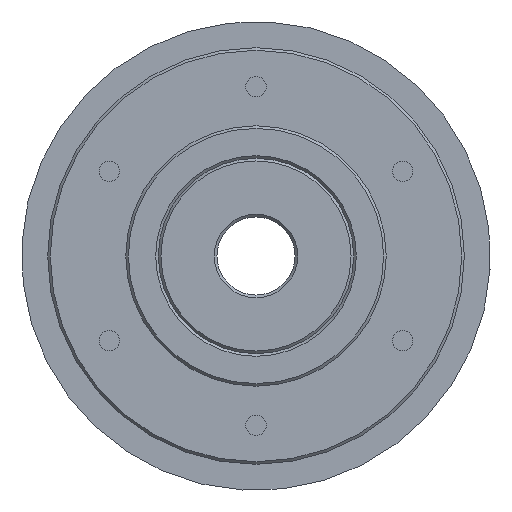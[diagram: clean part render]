
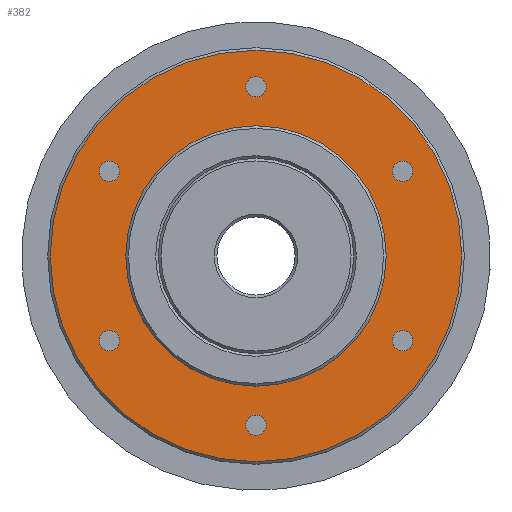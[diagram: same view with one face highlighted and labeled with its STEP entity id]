
A CAD part, left-side view. The second image highlights one B-rep face of the part: STEP entity #382.
In plain terms, the highlighted planar face has unit normal (-1, 0, 0).
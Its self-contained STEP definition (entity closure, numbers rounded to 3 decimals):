
#382 = ADVANCED_FACE( '', ( #781, #782, #783, #784, #785, #786, #787, #788 ), #789, .T. );
#781 = FACE_BOUND( '', #1302, .T. );
#782 = FACE_BOUND( '', #1303, .T. );
#783 = FACE_BOUND( '', #1304, .T. );
#784 = FACE_BOUND( '', #1305, .T. );
#785 = FACE_BOUND( '', #1306, .T. );
#786 = FACE_BOUND( '', #1307, .T. );
#787 = FACE_OUTER_BOUND( '', #1308, .T. );
#788 = FACE_BOUND( '', #1309, .T. );
#789 = PLANE( '', #1310 );
#1302 = EDGE_LOOP( '', ( #1882 ) );
#1303 = EDGE_LOOP( '', ( #1883 ) );
#1304 = EDGE_LOOP( '', ( #1884 ) );
#1305 = EDGE_LOOP( '', ( #1885 ) );
#1306 = EDGE_LOOP( '', ( #1886 ) );
#1307 = EDGE_LOOP( '', ( #1887 ) );
#1308 = EDGE_LOOP( '', ( #1888 ) );
#1309 = EDGE_LOOP( '', ( #1889 ) );
#1310 = AXIS2_PLACEMENT_3D( '', #1890, #1891, #1892 );
#1882 = ORIENTED_EDGE( '', *, *, #2501, .T. );
#1883 = ORIENTED_EDGE( '', *, *, #2590, .T. );
#1884 = ORIENTED_EDGE( '', *, *, #2591, .T. );
#1885 = ORIENTED_EDGE( '', *, *, #2592, .T. );
#1886 = ORIENTED_EDGE( '', *, *, #2593, .T. );
#1887 = ORIENTED_EDGE( '', *, *, #2594, .T. );
#1888 = ORIENTED_EDGE( '', *, *, #2595, .T. );
#1889 = ORIENTED_EDGE( '', *, *, #2596, .F. );
#1890 = CARTESIAN_POINT( '', ( 4.8, 0., 10. ) );
#1891 = DIRECTION( '', ( -1., 0., 0. ) );
#1892 = DIRECTION( '', ( 0., 0., 1. ) );
#2501 = EDGE_CURVE( '', #2807, #2807, #2808, .T. );
#2590 = EDGE_CURVE( '', #2948, #2948, #2949, .T. );
#2591 = EDGE_CURVE( '', #2950, #2950, #2951, .T. );
#2592 = EDGE_CURVE( '', #2952, #2952, #2953, .T. );
#2593 = EDGE_CURVE( '', #2954, #2954, #2955, .T. );
#2594 = EDGE_CURVE( '', #2956, #2956, #2957, .T. );
#2595 = EDGE_CURVE( '', #2958, #2958, #2959, .T. );
#2596 = EDGE_CURVE( '', #2960, #2960, #2961, .T. );
#2807 = VERTEX_POINT( '', #3243 );
#2808 = CIRCLE( '', #3244, 0.784 );
#2948 = VERTEX_POINT( '', #3460 );
#2949 = CIRCLE( '', #3461, 0.783 );
#2950 = VERTEX_POINT( '', #3462 );
#2951 = CIRCLE( '', #3463, 0.784 );
#2952 = VERTEX_POINT( '', #3464 );
#2953 = CIRCLE( '', #3465, 0.784 );
#2954 = VERTEX_POINT( '', #3466 );
#2955 = CIRCLE( '', #3467, 0.784 );
#2956 = VERTEX_POINT( '', #3468 );
#2957 = CIRCLE( '', #3469, 0.784 );
#2958 = VERTEX_POINT( '', #3470 );
#2959 = CIRCLE( '', #3471, 15.8 );
#2960 = VERTEX_POINT( '', #3472 );
#2961 = CIRCLE( '', #3473, 10. );
#3243 = CARTESIAN_POINT( '', ( 4.8, 11.937, 6.892 ) );
#3244 = AXIS2_PLACEMENT_3D( '', #4091, #4092, #4093 );
#3460 = CARTESIAN_POINT( '', ( 4.8, 11.937, -6.892 ) );
#3461 = AXIS2_PLACEMENT_3D( '', #4238, #4239, #4240 );
#3462 = CARTESIAN_POINT( '', ( 4.8, 0., -13.784 ) );
#3463 = AXIS2_PLACEMENT_3D( '', #4241, #4242, #4243 );
#3464 = CARTESIAN_POINT( '', ( 4.8, -11.937, -6.892 ) );
#3465 = AXIS2_PLACEMENT_3D( '', #4244, #4245, #4246 );
#3466 = CARTESIAN_POINT( '', ( 4.8, -11.937, 6.892 ) );
#3467 = AXIS2_PLACEMENT_3D( '', #4247, #4248, #4249 );
#3468 = CARTESIAN_POINT( '', ( 4.8, 0., 13.784 ) );
#3469 = AXIS2_PLACEMENT_3D( '', #4250, #4251, #4252 );
#3470 = CARTESIAN_POINT( '', ( 4.8, 0., 15.8 ) );
#3471 = AXIS2_PLACEMENT_3D( '', #4253, #4254, #4255 );
#3472 = CARTESIAN_POINT( '', ( 4.8, 0., 10. ) );
#3473 = AXIS2_PLACEMENT_3D( '', #4256, #4257, #4258 );
#4091 = CARTESIAN_POINT( '', ( 4.8, 11.258, 6.5 ) );
#4092 = DIRECTION( '', ( 1., 0., 0. ) );
#4093 = DIRECTION( '', ( 0., 0.866, 0.5 ) );
#4238 = CARTESIAN_POINT( '', ( 4.8, 11.258, -6.5 ) );
#4239 = DIRECTION( '', ( 1., 0., 0. ) );
#4240 = DIRECTION( '', ( 0., 0.866, -0.5 ) );
#4241 = CARTESIAN_POINT( '', ( 4.8, 0., -13. ) );
#4242 = DIRECTION( '', ( 1., 0., 0. ) );
#4243 = DIRECTION( '', ( 0., 0., -1. ) );
#4244 = CARTESIAN_POINT( '', ( 4.8, -11.258, -6.5 ) );
#4245 = DIRECTION( '', ( 1., 0., 0. ) );
#4246 = DIRECTION( '', ( 0., -0.866, -0.5 ) );
#4247 = CARTESIAN_POINT( '', ( 4.8, -11.258, 6.5 ) );
#4248 = DIRECTION( '', ( 1., 0., 0. ) );
#4249 = DIRECTION( '', ( 0., -0.866, 0.5 ) );
#4250 = CARTESIAN_POINT( '', ( 4.8, 0., 13. ) );
#4251 = DIRECTION( '', ( 1., 0., 0. ) );
#4252 = DIRECTION( '', ( 0., 0., 1. ) );
#4253 = CARTESIAN_POINT( '', ( 4.8, 0., 0. ) );
#4254 = DIRECTION( '', ( -1., 0., 0. ) );
#4255 = DIRECTION( '', ( 0., 0., 1. ) );
#4256 = CARTESIAN_POINT( '', ( 4.8, 0., 0. ) );
#4257 = DIRECTION( '', ( -1., 0., 0. ) );
#4258 = DIRECTION( '', ( 0., 0., 1. ) );
